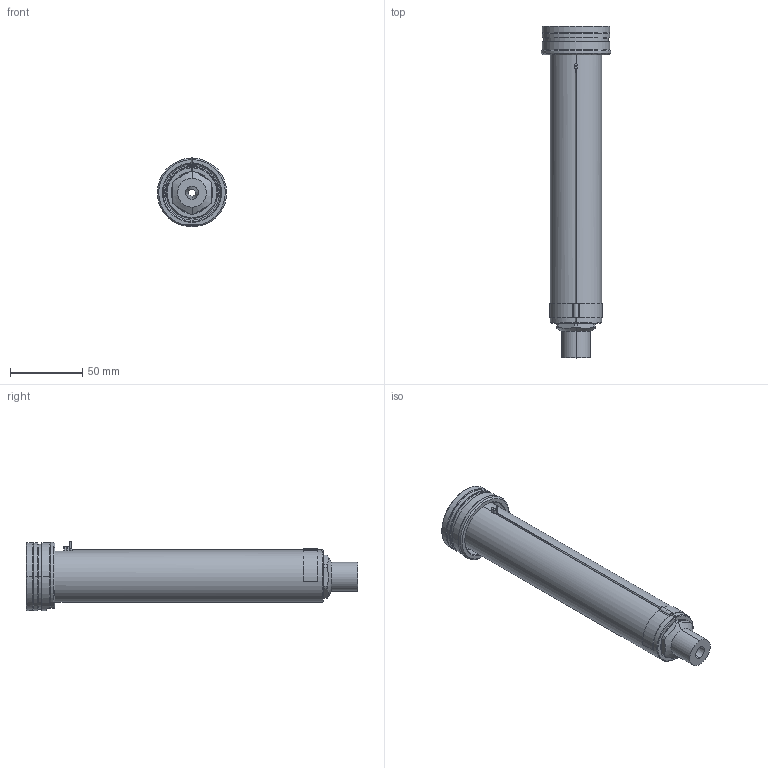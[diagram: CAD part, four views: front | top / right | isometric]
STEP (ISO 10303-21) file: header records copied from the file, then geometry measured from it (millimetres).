
FILE_DESCRIPTION((''),'2;1');
FILE_NAME('EO16_VG-ST_ESG_200_SW','2024-02-19T12:58:31',('sundharh'),(''),'CREO PARAMETRIC BY PTC INC, 2023154','CREO PARAMETRIC BY PTC INC, 2023154','');
FILE_SCHEMA(('CONFIG_CONTROL_DESIGN'));
Length unit declared in the file: millimetre
Products named in the file (1): EO16_VG-ST_ESG_200_SW
Bounding box: 47.97 x 230 x 48 mm (x, y, z)
Volume: 183124.2 mm3; surface area: 43943 mm2
Topology: 1 solids, 1 shells, 169 faces, 418 edges, 256 vertices
Faces by surface type: cylinder 64, plane 45, cone 35, torus 14, bspline 9, sphere 2
Entity records: 5848 total; most frequent: CARTESIAN_POINT 1762, DIRECTION 906, ORIENTED_EDGE 824, EDGE_CURVE 412, AXIS2_PLACEMENT_3D 374, VERTEX_POINT 256, CIRCLE 214, EDGE_LOOP 184
